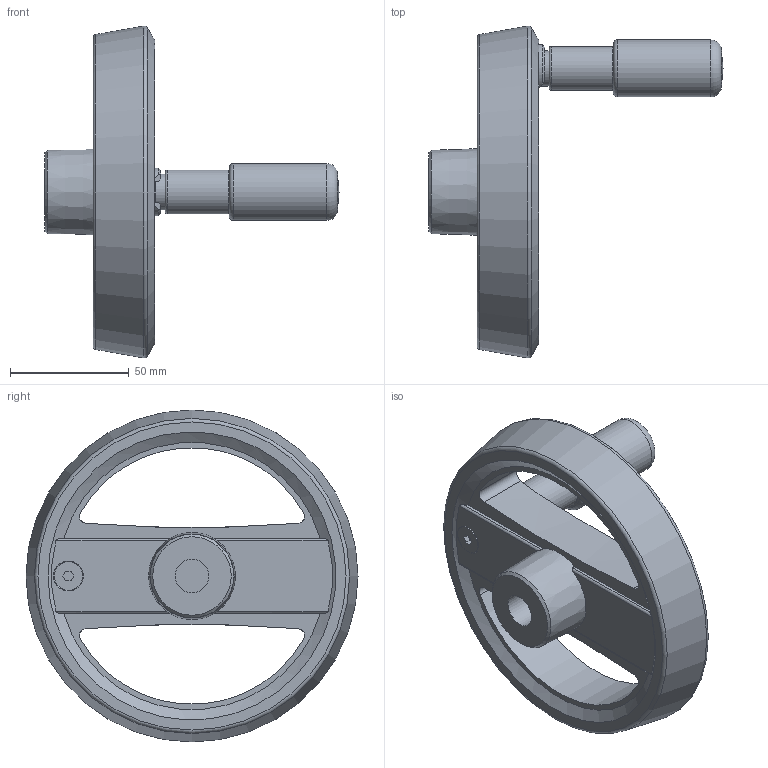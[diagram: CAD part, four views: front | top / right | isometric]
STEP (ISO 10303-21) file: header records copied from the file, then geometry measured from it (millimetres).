
FILE_DESCRIPTION( ( 'STEP AP203' ), '1' );
FILE_NAME( 'C:/Temp/Ganter_Step_05_03_2020/data/1_3/gn_924_7/gn_924_7_b/Handwheel with retractable handle GN 924.7-140-B14-R-SW (activated).stp', '2020-03-05T10:41:31', ( 'License CC BY-ND 4.0' ), ( 'CADENAS' ), ' ', 'PARTsolutions', ' ' );
FILE_SCHEMA( ( 'CONFIG_CONTROL_DESIGN' ) );
Length unit declared in the file: millimetre
Products named in the file (3): Handwheel with retractable handle GN 924.7-140-B14-R-SW (activated); _Umleggriff-Handrad GN 924.7-140-B14-R-SW-1; _Umleggriff-Handrad GN 924.7-140-B14-R-SW (90)-2
Assembly tree (2 placements, depth 2):
  Handwheel with retractable handle GN 924.7-140-B14-R-SW (activated)
    _Umleggriff-Handrad GN 924.7-140-B14-R-SW-1
    _Umleggriff-Handrad GN 924.7-140-B14-R-SW (90)-2
Bounding box: 123.7 x 139.68 x 139.68 mm (x, y, z)
Volume: 223932.1 mm3; surface area: 57883.1 mm2
Topology: 2 solids, 2 shells, 102 faces, 257 edges, 166 vertices
Faces by surface type: plane 44, cylinder 38, cone 10, torus 8, sphere 2
Full cylindrical faces by diameter (mm): 4 x4, 5 x1, 8 x1, 12 x1, 14 x1, 15 x1, 18.5 x1, 20 x1, 24 x1, 25 x1, 25.6 x1
Entity records: 3339 total; most frequent: CARTESIAN_POINT 961, DIRECTION 474, ORIENTED_EDGE 426, EDGE_CURVE 213, AXIS2_PLACEMENT_3D 198, VERTEX_POINT 158, EDGE_LOOP 150, FACE_OUTER_BOUND 123
